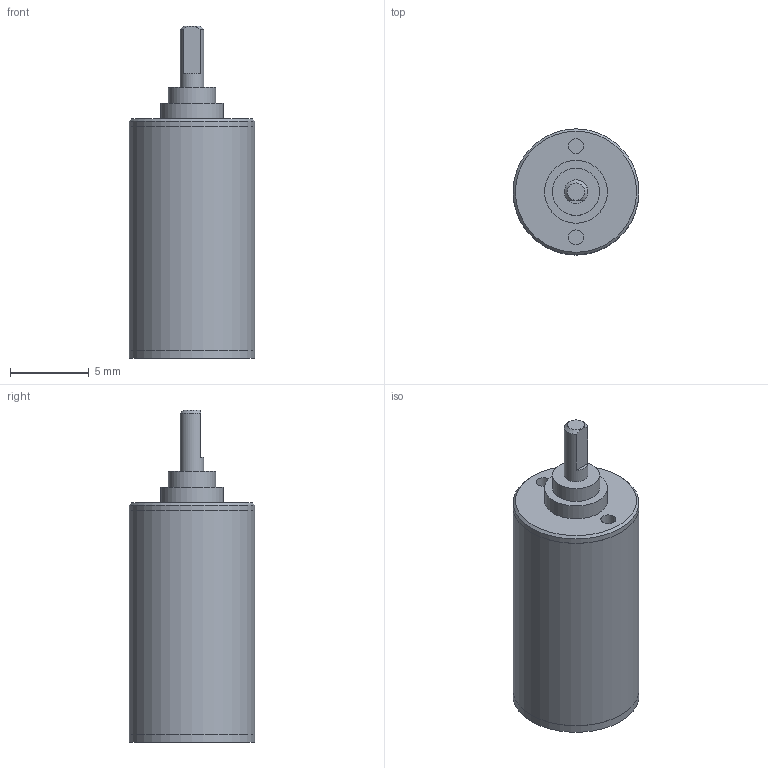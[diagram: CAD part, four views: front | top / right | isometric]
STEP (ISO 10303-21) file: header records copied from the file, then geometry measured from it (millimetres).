
FILE_DESCRIPTION(/* description */ (''),/* implementation_level */ '2;1');
FILE_NAME(/* name */ '08-2_4.stp',/* time_stamp */ '2016-08-23T14:02:07+02:00',/* author */ ('DR. FRITZ FAULHABER GmbH & Co. KG'),/* organization */ ('DR. FRITZ FAULHABER GmbH & Co. KG'),/* preprocessor_version */ 'ST-DEVELOPER v16',/* originating_system */ 'SIEMENS PLM Software NX 10.0',/* authorisation */ '');
FILE_SCHEMA (('AUTOMOTIVE_DESIGN { 1 0 10303 214 3 1 1 1 }'));
Length unit declared in the file: millimetre
Products named in the file (1): H00000390_A
Bounding box: 8 x 8 x 21.1 mm (x, y, z)
Volume: 718.9 mm3; surface area: 589.9 mm2
Topology: 1 solids, 1 shells, 33 faces, 56 edges, 37 vertices
Faces by surface type: plane 16, cylinder 14, cone 3
Full cylindrical faces by diameter (mm): 0.95 x2, 1.5 x1, 2.13 x1, 2.53 x1, 3 x1, 4 x1, 4.959 x1, 6 x1, 7.99 x2, 8 x3
Entity records: 709 total; most frequent: DIRECTION 133, CARTESIAN_POINT 115, ORIENTED_EDGE 72, AXIS2_PLACEMENT_3D 65, EDGE_LOOP 61, FACE_BOUND 54, EDGE_CURVE 36, ADVANCED_FACE 33
